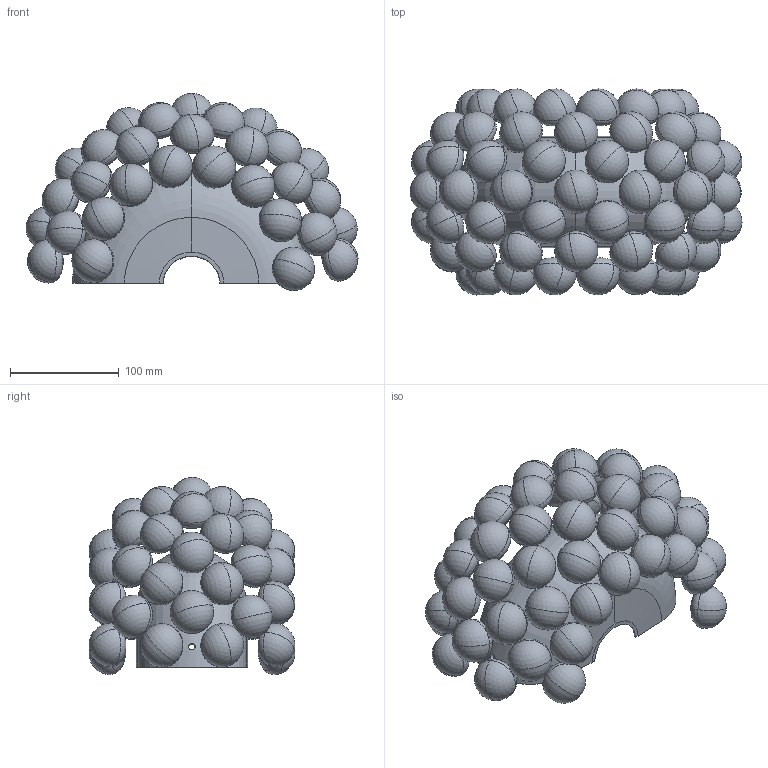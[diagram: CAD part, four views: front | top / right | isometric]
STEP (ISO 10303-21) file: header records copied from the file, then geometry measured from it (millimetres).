
FILE_DESCRIPTION (( 'STEP AP214' ), '1' );
FILE_NAME ('311_PICCOLA_W_XX_3D.STEP', '2021-05-21T10:00:33', ( '' ), ( '' ), 'SwSTEP 2.0', 'SolidWorks 2021', '' );
FILE_SCHEMA (( 'AUTOMOTIVE_DESIGN' ));
Length unit declared in the file: millimetre
Products named in the file (1): 311_PICCOLA_W_XX_3D
Bounding box: 305.9 x 189.77 x 181.77 mm (x, y, z)
Volume: 1608543.9 mm3; surface area: 339420.4 mm2
Topology: 54 solids, 54 shells, 502 faces, 1126 edges, 626 vertices
Faces by surface type: sphere 212, torus 115, cylinder 112, plane 57, cone 6
Entity records: 19042 total; most frequent: DIRECTION 2663, CARTESIAN_POINT 2547, ORIENTED_EDGE 1828, AXIS2_PLACEMENT_3D 1272, EDGE_CURVE 914, CIRCLE 769, UNCERTAINTY_MEASURE_WITH_UNIT 558, SURFACE_STYLE_FILL_AREA 557
